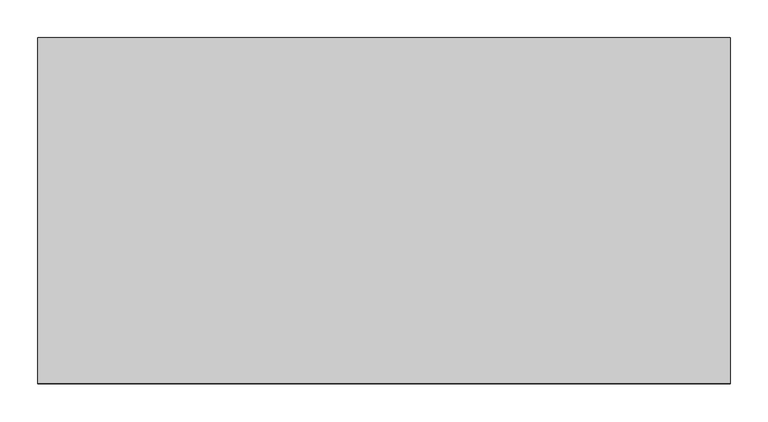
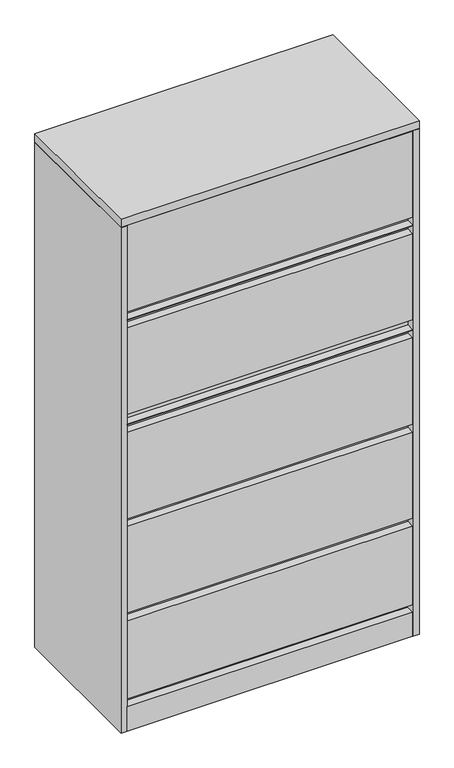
"""IFC4 building model written with IfcOpenShell, lengths in millimetres: furniture geometry, Steelcase - 900 Series - Storage - Lateral File With Posting Shelf - Flush Steel : Five 12H Lift Up Door - 36W."""

from ifc_helpers import new_model, si_unit, frame, origin, origin_with_axes, place, context, project, spatial, polyline, outline, extrude, faceted_brep, source, transform, mapped, element, save


def furniture_a2c3bfa7(model_context):
    return source(origin(), model_context, "Body", "SolidModel", [
        extrude(outline(polyline([(893.5722015, -25.2721219), (893.5722015, -431.800255), (19.3039998, -431.800255), (19.3039998, -25.2721219), (893.5722015, -25.2721219)])), frame((0.0, 0.0, 357.124), z_axis=(0.0, 0.0, 1.0), x_axis=(1.0, 0.0, 0.0)), (0.0, 0.0, 1.0), 25.4508),
        extrude(outline(polyline([(893.5722015, -25.2721219), (893.5722015, -431.800255), (19.3039998, -431.800255), (19.3039998, -25.2721219), (893.5722015, -25.2721219)])), frame((0.0, 0.0, 661.8732), z_axis=(0.0, 0.0, 1.0), x_axis=(1.0, 0.0, 0.0)), (0.0, 0.0, 1.0), 25.4508),
        extrude(outline(polyline([(893.5722015, -25.2721219), (893.5722015, -431.800255), (19.3039998, -431.800255), (19.3039998, -25.2721219), (893.5722015, -25.2721219)])), frame((0.0, 0.0, 966.6732), z_axis=(0.0, 0.0, 1.0), x_axis=(1.0, 0.0, 0.0)), (0.0, 0.0, 1.0), 25.4508),
        extrude(outline(polyline([(893.5722015, -25.2721219), (893.5722015, -431.800255), (19.3039998, -431.800255), (19.3039998, -25.2721219), (893.5722015, -25.2721219)])), frame((0.0, 0.0, 1304.9377), z_axis=(0.0, 0.0, 1.0), x_axis=(1.0, 0.0, 0.0)), (0.0, 0.0, 1.0), 25.4508),
        extrude(outline(polyline([(893.5722015, -25.2721219), (893.5722015, -431.800255), (19.3039998, -431.800255), (19.3039998, -25.2721219), (893.5722015, -25.2721219)])), frame((0.0, 0.0, 993.7115), z_axis=(0.0, 0.0, 1.0), x_axis=(1.0, 0.0, 0.0)), (0.0, 0.0, 1.0), 31.877),
        extrude(outline(polyline([(893.5722015, -25.2721219), (893.5722015, -431.800255), (19.3039998, -431.800255), (19.3039998, -25.2721219), (893.5722015, -25.2721219)])), frame((0.0, 0.0, 1331.976), z_axis=(0.0, 0.0, 1.0), x_axis=(1.0, 0.0, 0.0)), (0.0, 0.0, 1.0), 25.4508),
        extrude(outline(polyline([(-430.275847, 77.9779983), (-430.275847, 103.3780013), (-25.2721219, 103.3780013), (-25.2721219, 0.0), (-457.2, 0.0), (-457.2, 77.9779983), (-430.275847, 77.9779983)])), frame((19.3039998, 0.0, 0.0), z_axis=(1.0, 0.0, 0.0), x_axis=(0.0, 1.0, 0.0)), (0.0, 0.0, 1.0), 874.2682018),
        faceted_brep([(914.4, 0.0, 1663.7), (0.0, 0.0, 1663.7), (0.0, -457.2, 1663.7), (914.4, -457.2, 1663.7), (914.4, 0.0, 1638.2999516), (914.4, -457.2, 1638.2999516), (0.0, -457.2, 1638.2999516), (0.0, 0.0, 1638.2999516), (895.0960184, -25.2721219, 1638.2999516), (20.8289612, -25.2721219, 1638.2999516), (20.8289612, -415.9241219, 1638.2999516), (895.0960184, -415.9241219, 1638.2999516), (895.0960184, -25.2721219, 1636.776), (895.0960184, -415.9241219, 1636.776), (20.8289612, -415.9241219, 1636.776), (20.8289612, -25.2721219, 1636.776)], [[[0, 1, 2, 3]], [[4, 5, 6, 7], [8, 9, 10, 11]], [[1, 0, 4, 7]], [[2, 1, 7, 6]], [[3, 2, 6, 5]], [[0, 3, 5, 4]], [[12, 13, 14, 15]], [[12, 15, 9, 8]], [[15, 14, 10, 9]], [[14, 13, 11, 10]], [[13, 12, 8, 11]]]),
        extrude(outline(polyline([(893.5722015, -457.2), (20.8289612, -457.2), (20.8289612, -431.800255), (893.5722015, -431.800255), (893.5722015, -457.2)])), frame((0.0, 0.0, 103.3780013), z_axis=(0.0, 0.0, 1.0), x_axis=(1.0, 0.0, 0.0)), (0.0, 0.0, 1.0), 253.7459987),
        extrude(outline(polyline([(893.5722015, -457.2), (20.8289612, -457.2), (20.8289612, -431.800255), (893.5722015, -431.800255), (893.5722015, -457.2)])), frame((0.0, 0.0, 382.5748), z_axis=(0.0, 0.0, 1.0), x_axis=(1.0, 0.0, 0.0)), (0.0, 0.0, 1.0), 279.3492),
        extrude(outline(polyline([(893.5722015, -457.2), (20.8289612, -457.2), (20.8289612, -431.800255), (893.5722015, -431.800255), (893.5722015, -457.2)])), frame((0.0, 0.0, 687.324), z_axis=(0.0, 0.0, 1.0), x_axis=(1.0, 0.0, 0.0)), (0.0, 0.0, 1.0), 279.4),
        extrude(outline(polyline([(893.5722015, -457.2), (20.8289612, -457.2), (20.8289612, -431.800255), (893.5722015, -431.800255), (893.5722015, -457.2)])), frame((0.0, 0.0, 1025.5885), z_axis=(0.0, 0.0, 1.0), x_axis=(1.0, 0.0, 0.0)), (0.0, 0.0, 1.0), 279.4),
        extrude(outline(polyline([(893.5722015, -457.2), (20.8289612, -457.2), (20.8289612, -431.800255), (893.5722015, -431.800255), (893.5722015, -457.2)])), frame((0.0, 0.0, 1357.376), z_axis=(0.0, 0.0, 1.0), x_axis=(1.0, 0.0, 0.0)), (0.0, 0.0, 1.0), 279.2286248),
        extrude(outline(polyline([(893.5722015, -457.2), (19.3039998, -457.2), (19.3039998, -431.800255), (893.5722015, -431.800255), (893.5722015, -457.2)])), frame((0.0, 0.0, 992.124), z_axis=(0.0, 0.0, 1.0), x_axis=(1.0, 0.0, 0.0)), (0.0, 0.0, 1.0), 1.5875),
        extrude(outline(polyline([(895.0960184, -457.2), (19.3039998, -457.2), (19.3039998, -431.800255), (895.0960184, -431.800255), (895.0960184, -457.2)])), frame((0.0, 0.0, 1330.3885), z_axis=(0.0, 0.0, 1.0), x_axis=(1.0, 0.0, 0.0)), (0.0, 0.0, 1.0), 1.5875),
        extrude(outline(polyline([(895.0960184, -25.2721219), (19.3039998, -25.2721219), (19.3039998, -457.2), (0.0, -457.2), (0.0, 0.0), (914.4, 0.0), (914.4, -457.2), (895.0960184, -457.2), (895.0960184, -25.2721219)])), origin_with_axes(), (0.0, 0.0, 1.0), 1636.776),
    ])


if __name__ == "__main__":
    model = new_model("IFC4")
    model_context = context("Model", 3, world=origin())
    ifc_project = project(units=[si_unit("LENGTHUNIT", "METRE", prefix="MILLI")], contexts=[model_context])
    site = spatial("IfcSite", under=ifc_project)
    building = spatial("IfcBuilding", under=site)
    placement = place(None, origin())
    furniture_shape = furniture_a2c3bfa7(model_context)
    element("IfcFurniture", 1, ObjectType="Steelcase - 900 Series - Storage - Lateral File With Posting Shelf - Flush Steel : Five 12H Lift Up Door - 36W", at=placement, inside=building, context=model_context, shape_type="MappedRepresentation", body=[
        mapped(furniture_shape, transform((0.0, 0.0, 0.0), x_axis=(1.0, 0.0, 0.0), y_axis=(0.0, 1.0, 0.0), z_axis=(0.0, 0.0, 1.0))),
    ])
    save(model, "model.ifc")
